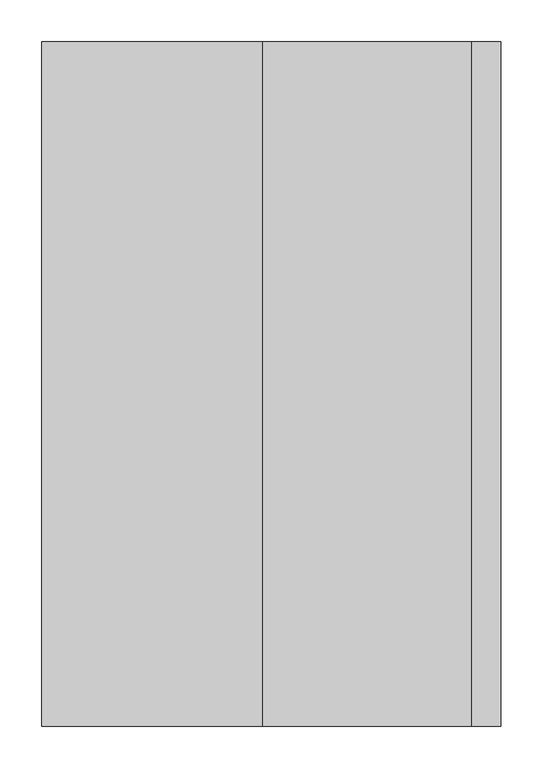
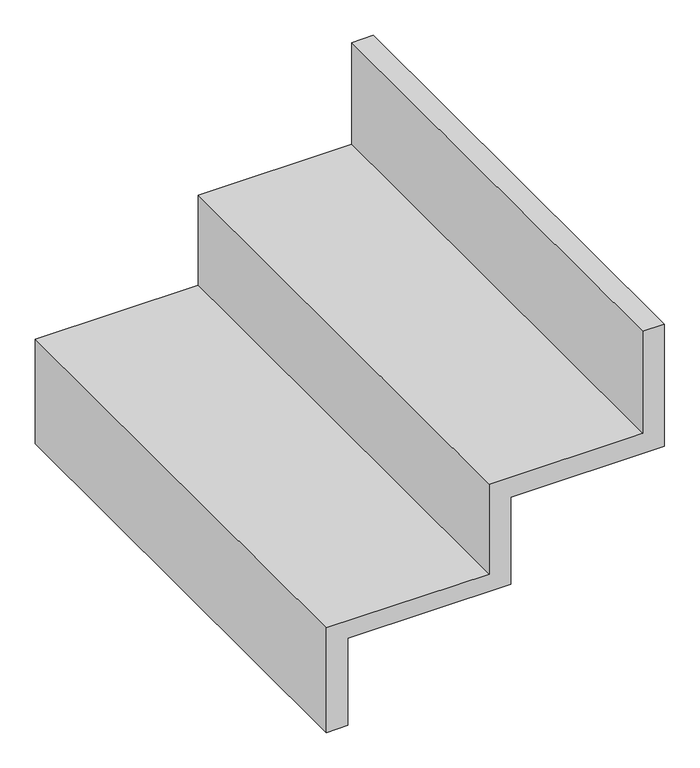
"""IFC4 building model written with IfcOpenShell, lengths in millimetres: proxy geometry, Л-3 : Л-3."""

from ifc_helpers import new_model, si_unit, frame, origin, place, context, project, spatial, polyline, outline, extrude, source, transform, mapped, element, save


def generic_models_03230570(model_context):
    return source(origin(), model_context, "Body", "SweptSolid", [
        extrude(outline(polyline([(295.0, 9405.0), (295.0, 9655.0), (505.0, 9655.0), (505.0, 9620.0), (330.0, 9620.0), (330.0, 9370.0), (175.0, 9370.0), (175.0, 9105.0), (-5.0, 9105.0), (-5.0, 9140.0), (145.0, 9140.0), (145.0, 9405.0), (295.0, 9405.0)])), frame((0.0, 9224.9965972, 0.0), z_axis=(0.0, 1.0, 0.0), x_axis=(0.0, 0.0, 1.0)), (0.0, 0.0, 1.0), 819.9954008),
    ])


if __name__ == "__main__":
    model = new_model("IFC4")
    model_context = context("Model", 3, world=origin())
    ifc_project = project(units=[si_unit("LENGTHUNIT", "METRE", prefix="MILLI")], contexts=[model_context])
    site = spatial("IfcSite", under=ifc_project)
    building = spatial("IfcBuilding", under=site)
    placement = place(None, origin())
    generic_models_shape = generic_models_03230570(model_context)
    element("IfcBuildingElementProxy", 1, Name="Л-3 : Л-3", ObjectType="Л-3 : Л-3", at=placement, inside=building, context=model_context, shape_type="MappedRepresentation", body=[
        mapped(generic_models_shape, transform((0.0, 0.0, 0.0), x_axis=(1.0, 0.0, 0.0), y_axis=(0.0, 1.0, 0.0), z_axis=(0.0, 0.0, 1.0))),
    ])
    save(model, "model.ifc")
